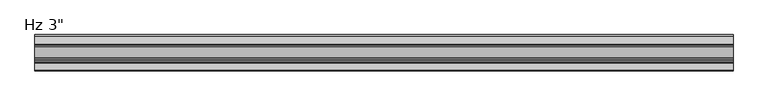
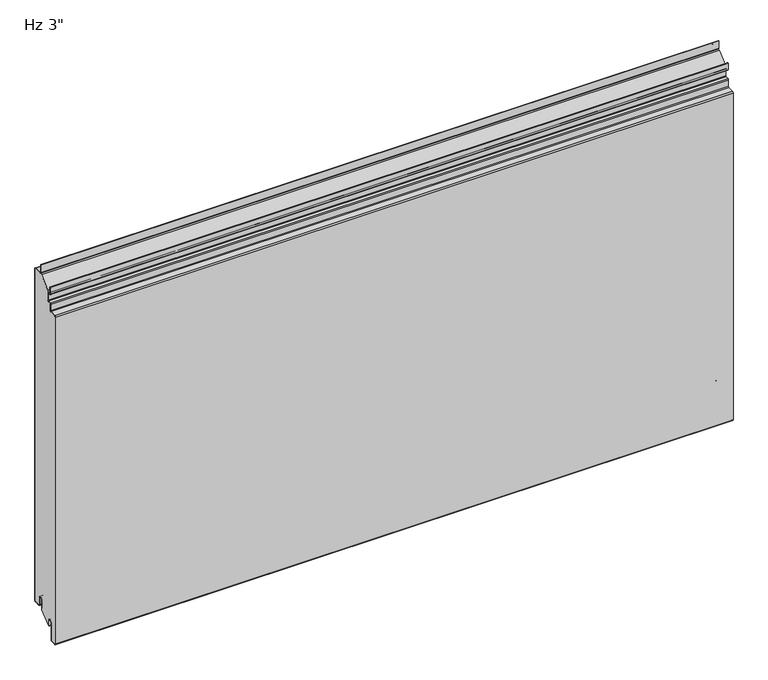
"""IFC4 building model written with IfcOpenShell, lengths in millimetres: plate geometry."""

import ifcopenshell
import ifcopenshell.guid

model = None  # the IFC model being written
_history = None  # IfcOwnerHistory: only IFC2X3 demands one
_inside = {}  # id of a spatial element -> (the spatial element, [elements in it])
_under = {}  # id of a project, library or spatial element -> (it, [spatial elements below it])
_declared = {}  # id of a project -> (the project, [libraries it declares])
_typed = {}  # id of a type object -> (the type object, [elements of that type])
_made_of = {}  # id of a material, layer set ... -> (it, [elements and type objects made of it])


def new_model(schema):
    """Start an empty IFC model of exactly this schema.

    Asked for "IFC4X3", IfcOpenShell would pick the latest addendum, in which some entities
    have other attributes; the version numbers below select the first issue.
    IFC2X3 requires an IfcOwnerHistory on every rooted entity: one is made here for all.
    """
    global model, _history
    if schema == "IFC4X3":
        model = ifcopenshell.file(schema_version=(4, 3, 0, 0))
    else:
        model = ifcopenshell.file(schema=schema)
    _inside.clear()
    _under.clear()
    _declared.clear()
    _typed.clear()
    _made_of.clear()
    _history = None
    if model.schema == "IFC2X3":
        org = make("IfcOrganization", Name="unknown")
        user = make(
            "IfcPersonAndOrganization",
            ThePerson=make("IfcPerson", FamilyName="unknown"),
            TheOrganization=org,
        )
        app = make(
            "IfcApplication",
            ApplicationDeveloper=org,
            Version="unknown",
            ApplicationFullName="unknown",
            ApplicationIdentifier="unknown",
        )
        _history = make(
            "IfcOwnerHistory",
            OwningUser=user,
            OwningApplication=app,
            ChangeAction="ADDED",
            CreationDate=0,
        )
    return model


def make(cls, **values):
    """One entity of the class cls with the attributes given. An attribute that is None is left unset."""
    return model.create_entity(
        cls, **{name: value for name, value in values.items() if value is not None}
    )


def rooted(cls, **values):
    """An entity with a GlobalId (a new one), such as an element, a storey or a relation."""
    return make(cls, GlobalId=ifcopenshell.guid.new(), OwnerHistory=_history, **values)


def si_unit(unit_type, name, prefix=None):
    """IfcSIUnit, for example si_unit("LENGTHUNIT", "METRE", prefix="MILLI")."""
    return make("IfcSIUnit", UnitType=unit_type, Prefix=prefix, Name=name)


def assignment(units):
    """IfcUnitAssignment: the units of a project."""
    return None if units is None else make("IfcUnitAssignment", Units=units)


def point(xyz):
    """IfcCartesianPoint."""
    return None if xyz is None else make("IfcCartesianPoint", Coordinates=xyz)


def direction(xyz):
    """IfcDirection."""
    return None if xyz is None else make("IfcDirection", DirectionRatios=xyz)


def frame(location, z_axis=None, x_axis=None):
    """IfcAxis2Placement3D, a coordinate frame: its origin and axes. An axis left out is left unset."""
    return make(
        "IfcAxis2Placement3D",
        Location=point(location),
        Axis=direction(z_axis),
        RefDirection=direction(x_axis),
    )


def frame_2d(location, x_axis=None):
    """IfcAxis2Placement2D, a coordinate frame in the plane: its origin and x axis."""
    return make(
        "IfcAxis2Placement2D", Location=point(location), RefDirection=direction(x_axis)
    )


def origin():
    """The frame at (0, 0, 0) with its axes left unset."""
    return frame((0.0, 0.0, 0.0))


def place(relative_to, where):
    """IfcLocalPlacement: puts the frame where relative to a parent placement (None: the world)."""
    return make(
        "IfcLocalPlacement", PlacementRelTo=relative_to, RelativePlacement=where
    )


def context(
    kind, dimensions, precision=None, world=None, true_north=None, identifier=None
):
    """IfcGeometricRepresentationContext, for example the 3D "Model" context."""
    return make(
        "IfcGeometricRepresentationContext",
        ContextIdentifier=identifier,
        ContextType=kind,
        CoordinateSpaceDimension=dimensions,
        Precision=precision,
        WorldCoordinateSystem=world,
        TrueNorth=true_north,
    )


def project(units=None, contexts=None):
    """IfcProject with its units and contexts."""
    return rooted(
        "IfcProject",
        Name="project",
        RepresentationContexts=contexts,
        UnitsInContext=assignment(units),
    )


def spatial(cls, under=None, at=None, **own):
    """A site, building, storey or space (cls), placed at a placement, below another one or the project."""
    s = rooted(cls, ObjectPlacement=at, **own)
    if under is not None:
        _under.setdefault(under.id(), (under, []))[1].append(s)
    return s


def polyline(points):
    """IfcPolyline through the points."""
    return make("IfcPolyline", Points=[point(p) for p in points])


def circle_curve(where, radius):
    """IfcCircle in the frame where."""
    return make("IfcCircle", Position=where, Radius=radius)


def ellipse_curve(where, semi_axis1, semi_axis2):
    """IfcEllipse in the frame where."""
    return make(
        "IfcEllipse", Position=where, SemiAxis1=semi_axis1, SemiAxis2=semi_axis2
    )


def trimmed(basis, trim1, trim2, sense, master):
    """IfcTrimmedCurve: the piece of a basis curve between two trims."""
    return make(
        "IfcTrimmedCurve",
        BasisCurve=basis,
        Trim1=trim1,
        Trim2=trim2,
        SenseAgreement=sense,
        MasterRepresentation=master,
    )


def segment(curve, same_sense, transition):
    """IfcCompositeCurveSegment."""
    return make(
        "IfcCompositeCurveSegment",
        Transition=transition,
        SameSense=same_sense,
        ParentCurve=curve,
    )


def composite_curve(segments, self_intersect=None):
    """IfcCompositeCurve: segments joined end to end."""
    return make("IfcCompositeCurve", Segments=segments, SelfIntersect=self_intersect)


def outline(outer, holes=None, kind="AREA"):
    """IfcArbitraryClosedProfileDef: a profile drawn as a closed curve; with holes, ...WithVoids."""
    if holes is None:
        return make("IfcArbitraryClosedProfileDef", ProfileType=kind, OuterCurve=outer)
    return make(
        "IfcArbitraryProfileDefWithVoids",
        ProfileType=kind,
        OuterCurve=outer,
        InnerCurves=holes,
    )


def extrude(swept, where, along, depth):
    """IfcExtrudedAreaSolid: the profile swept, set in the frame where, extruded along a direction by depth."""
    return make(
        "IfcExtrudedAreaSolid",
        SweptArea=swept,
        Position=where,
        ExtrudedDirection=direction(along),
        Depth=depth,
    )


def shape(context_of_items, identifier, shape_type, items):
    """IfcShapeRepresentation: the items that make up one representation, for example the "Body"."""
    return make(
        "IfcShapeRepresentation",
        ContextOfItems=context_of_items,
        RepresentationIdentifier=identifier,
        RepresentationType=shape_type,
        Items=items,
    )


def source(mapping_origin, context_of_items, identifier, shape_type, items):
    """IfcRepresentationMap: a shape defined once, which mapped items show again and again."""
    return make(
        "IfcRepresentationMap",
        MappingOrigin=mapping_origin,
        MappedRepresentation=shape(context_of_items, identifier, shape_type, items),
    )


def transform(
    local_origin,
    x_axis=None,
    y_axis=None,
    z_axis=None,
    scale=None,
    scale2=None,
    scale3=None,
    uniform=True,
):
    """IfcCartesianTransformationOperator3D, or its non-uniform kind. x_axis, y_axis, z_axis: its Axis1, 2, 3."""
    if uniform:
        return make(
            "IfcCartesianTransformationOperator3D",
            Axis1=direction(x_axis),
            Axis2=direction(y_axis),
            LocalOrigin=point(local_origin),
            Scale=scale,
            Axis3=direction(z_axis),
        )
    return make(
        "IfcCartesianTransformationOperator3DnonUniform",
        Axis1=direction(x_axis),
        Axis2=direction(y_axis),
        LocalOrigin=point(local_origin),
        Scale=scale,
        Axis3=direction(z_axis),
        Scale2=scale2,
        Scale3=scale3,
    )


def mapped(mapping_source, mapping_target):
    """IfcMappedItem: shows the shape of a source again, moved by a transform."""
    return make(
        "IfcMappedItem", MappingSource=mapping_source, MappingTarget=mapping_target
    )


def made_of(thing, what):
    """Note that an element or type object is made of a material, layer set ...; save() writes the relation."""
    if what is not None:
        _made_of.setdefault(what.id(), (what, []))[1].append(thing)
    return thing


def element(
    cls,
    number,
    at=None,
    inside=None,
    cuts=None,
    type_object=None,
    material=None,
    context=None,
    identifier="Body",
    shape_type=None,
    held_by="IfcProductDefinitionShape",
    body=None,
    shapes=None,
    **own,
):
    """One element of the class cls, such as IfcWall. Its Tag is "e" and its number.

    at: its placement. inside: the storey or other place that contains it. cuts: it is an
    opening in that element (IfcRelVoidsElement). A single representation is given by context,
    identifier, shape_type and body (its items); several are given by shapes. held_by: the class
    of the entity that holds the representations. save() writes the other relations.
    """
    e = rooted(cls, Tag="e%d" % number, ObjectPlacement=at, **own)
    if body is not None:
        shapes = [shape(context, identifier, shape_type, body)]
    if shapes is not None:
        e.Representation = make(held_by, Representations=shapes)
    if inside is not None:
        _inside.setdefault(inside.id(), (inside, []))[1].append(e)
    if cuts is not None:
        rooted(
            "IfcRelVoidsElement", RelatingBuildingElement=cuts, RelatedOpeningElement=e
        )
    if type_object is not None:
        _typed.setdefault(type_object.id(), (type_object, []))[1].append(e)
    return made_of(e, material)


def aggregate(whole, parts):
    """IfcRelAggregates: a whole, such as a stair, and the parts it consists of."""
    return rooted("IfcRelAggregates", RelatingObject=whole, RelatedObjects=parts)


def save(model, path):
    """Write the relations noted so far, then the file.

    IfcRelAggregates (storeys below a building ...), IfcRelContainedInSpatialStructure (elements
    in a storey), IfcRelDefinesByType, IfcRelAssociatesMaterial and IfcRelDeclares: one each for
    every whole, place, type object, material and project.
    """
    for whole, parts in _under.values():
        aggregate(whole, parts)
    for where, things in _inside.values():
        rooted(
            "IfcRelContainedInSpatialStructure",
            RelatedElements=things,
            RelatingStructure=where,
        )
    for kind, things in _typed.values():
        rooted("IfcRelDefinesByType", RelatedObjects=things, RelatingType=kind)
    for what, things in _made_of.values():
        rooted("IfcRelAssociatesMaterial", RelatedObjects=things, RelatingMaterial=what)
    for by, libraries in _declared.values():
        rooted("IfcRelDeclares", RelatingContext=by, RelatedDefinitions=libraries)
    model.write(path)


def plane_surface(at):
    """IfcPlane: the flat surface through the origin of the frame at, square to its z axis."""
    return make("IfcPlane", Position=at)


def cylinder_surface(at, radius):
    """IfcCylindricalSurface: all points at the distance radius from the z axis of the frame at."""
    return make("IfcCylindricalSurface", Position=at, Radius=radius)


def revolved_surface(curve, axis_point, axis_direction):
    """IfcSurfaceOfRevolution: the curve turned about the line through axis_point along axis_direction."""
    return make(
        "IfcSurfaceOfRevolution",
        SweptCurve=make("IfcArbitraryOpenProfileDef", ProfileType="CURVE", Curve=curve),
        AxisPosition=make("IfcAxis1Placement", Location=point(axis_point), Axis=direction(axis_direction)),
    )


def extruded_surface(curve, direction_of_extrusion, depth):
    """IfcSurfaceOfLinearExtrusion: the curve pushed along a direction by depth."""
    return make(
        "IfcSurfaceOfLinearExtrusion",
        SweptCurve=make("IfcArbitraryOpenProfileDef", ProfileType="CURVE", Curve=curve),
        ExtrudedDirection=direction(direction_of_extrusion),
        Depth=depth,
    )


def advanced_brep(points, edges, surfaces, faces):
    """IfcAdvancedBrep: a solid bounded by faces that lie on surfaces and meet in shared edges.

    An edge is (start, end): straight between two places in points (the first is 0);
    or (start, end, curve); or (start, end, curve, False) where it runs against its curve.
    A face is (place in surfaces, loops), or (place, loops, False) where it looks against
    its surface's normal. A loop lists edges by number (the first is 1), with a minus sign
    where the edge is run from its end to its start. The first loop is the outer one.
    """
    corners = [point(p) for p in points]
    vertices = [make("IfcVertexPoint", VertexGeometry=c) for c in corners]
    made = []
    for start, end, *more in edges:
        made.append(
            make(
                "IfcEdgeCurve",
                EdgeStart=vertices[start],
                EdgeEnd=vertices[end],
                EdgeGeometry=more[0] if more else make("IfcPolyline", Points=[corners[start], corners[end]]),
                SameSense=more[1] if len(more) > 1 else True,
            )
        )
    hull = []
    for where, loops, *sense in faces:
        bounds = []
        for j, loop in enumerate(loops):
            ring = [make("IfcOrientedEdge", EdgeElement=made[abs(k) - 1], Orientation=k > 0) for k in loop]
            bounds.append(
                make(
                    "IfcFaceOuterBound" if j == 0 else "IfcFaceBound",
                    Bound=make("IfcEdgeLoop", EdgeList=ring),
                    Orientation=True,
                )
            )
        hull.append(make("IfcAdvancedFace", Bounds=bounds, FaceSurface=surfaces[where], SameSense=sense[0] if sense else True))
    return make("IfcAdvancedBrep", Outer=make("IfcClosedShell", CfsFaces=hull))


def plate_ecee1f56(model_context):
    return source(origin(), model_context, "Body", "SolidModel", [
        extrude(outline(composite_curve([segment(trimmed(circle_curve(frame_2d((-21.43125, 19.05)), 4.96875), [point((-16.4625, 19.05))], [point((-26.4, 19.05))], True, "CARTESIAN"), True, "CONTINUOUS"), segment(polyline([(-26.4, 19.05), (-26.4, -3.1323422), (-49.2157227, -23.01875), (-50.8, -23.01875), (-50.8, -13.5080174), (-51.59375, -13.5080174), (-51.3875, -11.9205174)]), True, "CONTINUOUS"), segment(trimmed(circle_curve(frame_2d((-56.35625, -11.9205174)), 4.96875), [point((-51.3875, -11.9205174))], [point((-61.325, -11.9205174))], True, "CARTESIAN"), True, "CONTINUOUS"), segment(polyline([(-61.325, -11.9205174), (-61.325, -50.1038221)]), True, "CONTINUOUS"), segment(trimmed(circle_curve(frame_2d((-62.70625, -50.1038221)), 1.38125), [point((-61.325, -50.1038221))], [point((-62.633961, -51.4831791))], False, "CARTESIAN"), True, "CONTINUOUS"), segment(polyline([(-62.633961, -51.4831791), (-73.746461, -52.0655606)]), True, "CONTINUOUS"), segment(trimmed(circle_curve(frame_2d((-73.81875, -50.6862035)), 1.38125), [point((-73.746461, -52.0655606))], [point((-75.2, -50.6862035))], False, "CARTESIAN"), True, "CONTINUOUS"), segment(polyline([(-75.2, -50.6862035), (-75.2, 693.8447607)]), True, "CONTINUOUS"), segment(trimmed(circle_curve(frame_2d((-73.81875, 693.8447607)), 1.38125), [point((-75.2, 693.8447607))], [point((-73.891039, 695.2241177))], False, "CARTESIAN"), True, "CONTINUOUS"), segment(polyline([(-73.891039, 695.2241177), (-60.1895807, 695.9421807)]), True, "CONTINUOUS"), segment(trimmed(circle_curve(frame_2d((-60.325, 698.5261347)), 2.5875), [point((-60.1895807, 695.9421807))], [point((-57.7375, 698.5261347))], True, "CARTESIAN"), True, "CONTINUOUS"), segment(polyline([(-57.7375, 698.5261347), (-57.7375, 712.6824411)]), True, "CONTINUOUS"), segment(trimmed(circle_curve(frame_2d((-56.35625, 712.6824411)), 1.38125), [point((-57.7375, 712.6824411))], [point((-56.428539, 714.0617981))], False, "CARTESIAN"), True, "CONTINUOUS"), segment(polyline([(-56.428539, 714.0617981), (-50.6645807, 714.3638744)]), True, "CONTINUOUS"), segment(trimmed(circle_curve(frame_2d((-50.8, 716.9478283)), 2.5875), [point((-50.6645807, 714.3638744))], [point((-48.2125, 716.9478283))], True, "CARTESIAN"), True, "CONTINUOUS"), segment(polyline([(-48.2125, 716.9478283), (-48.2125, 739.3892934), (-24.9057308, 760.20625), (-2.38125, 760.20625)]), True, "CONTINUOUS"), segment(trimmed(circle_curve(frame_2d((-2.38125, 758.825)), 1.38125), [point((-2.38125, 760.20625))], [point((-1.0, 758.825))], False, "CARTESIAN"), True, "CONTINUOUS"), segment(polyline([(-1.0, 758.825), (-1.0, 3.175)]), True, "CONTINUOUS"), segment(trimmed(circle_curve(frame_2d((-2.38125, 3.175)), 1.38125), [point((-1.0, 3.175))], [point((-2.38125, 1.79375))], False, "CARTESIAN"), True, "CONTINUOUS"), segment(polyline([(-2.38125, 1.79375), (-15.08125, 1.79375)]), True, "CONTINUOUS"), segment(trimmed(circle_curve(frame_2d((-15.08125, 3.175)), 1.38125), [point((-15.08125, 1.79375))], [point((-16.4625, 3.175))], False, "CARTESIAN"), True, "CONTINUOUS"), segment(polyline([(-16.4625, 3.175), (-16.4625, 19.05)]), True, "CONTINUOUS")], self_intersect=False)), frame((-730.0, 0.0, 0.0), z_axis=(1.0, 0.0, 0.0), x_axis=(0.0, 1.0, 0.0)), (0.0, 0.0, 1.0), 1460.0),
        extrude(outline(composite_curve([segment(polyline([(-25.4, 0.79375), (-26.4, 0.79375), (-26.4, 19.05)]), True, "CONTINUOUS"), segment(trimmed(circle_curve(frame_2d((-21.43125, 19.05)), 4.96875), [point((-26.4, 19.05))], [point((-16.4625, 19.05))], False, "CARTESIAN"), True, "CONTINUOUS"), segment(polyline([(-16.4625, 19.05), (-16.4625, 3.175)]), True, "CONTINUOUS"), segment(trimmed(circle_curve(frame_2d((-15.08125, 3.175)), 1.38125), [point((-16.4625, 3.175))], [point((-15.08125, 1.79375))], True, "CARTESIAN"), True, "CONTINUOUS"), segment(polyline([(-15.08125, 1.79375), (-2.38125, 1.79375)]), True, "CONTINUOUS"), segment(trimmed(circle_curve(frame_2d((-2.38125, 3.175)), 1.38125), [point((-2.38125, 1.79375))], [point((-1.0, 3.175))], True, "CARTESIAN"), True, "CONTINUOUS"), segment(polyline([(-1.0, 3.175), (-1.0, 758.825)]), True, "CONTINUOUS"), segment(trimmed(circle_curve(frame_2d((-2.38125, 758.825)), 1.38125), [point((-1.0, 758.825))], [point((-2.38125, 760.20625))], True, "CARTESIAN"), True, "CONTINUOUS"), segment(polyline([(-2.38125, 760.20625), (-19.446875, 760.20625)]), True, "CONTINUOUS"), segment(trimmed(circle_curve(frame_2d((-19.446875, 762.79375)), 2.5875), [point((-19.446875, 760.20625))], [point((-22.034375, 762.79375))], False, "CARTESIAN"), True, "CONTINUOUS"), segment(polyline([(-22.034375, 762.79375), (-22.034375, 780.25625), (-21.034375, 780.25625), (-21.034375, 762.79375)]), True, "CONTINUOUS"), segment(trimmed(circle_curve(frame_2d((-19.446875, 762.79375)), 1.5875), [point((-21.034375, 762.79375))], [point((-19.446875, 761.20625))], True, "CARTESIAN"), True, "CONTINUOUS"), segment(polyline([(-19.446875, 761.20625), (-2.38125, 761.20625)]), True, "CONTINUOUS"), segment(trimmed(circle_curve(frame_2d((-2.38125, 758.825)), 2.38125), [point((-2.38125, 761.20625))], [point((0.0, 758.825))], False, "CARTESIAN"), True, "CONTINUOUS"), segment(polyline([(0.0, 758.825), (0.0, 3.175)]), True, "CONTINUOUS"), segment(trimmed(circle_curve(frame_2d((-2.38125, 3.175)), 2.38125), [point((0.0, 3.175))], [point((-2.38125, 0.79375))], False, "CARTESIAN"), True, "CONTINUOUS"), segment(polyline([(-2.38125, 0.79375), (-15.08125, 0.79375)]), True, "CONTINUOUS"), segment(trimmed(circle_curve(frame_2d((-15.08125, 3.175)), 2.38125), [point((-15.08125, 0.79375))], [point((-17.4625, 3.175))], False, "CARTESIAN"), True, "CONTINUOUS"), segment(polyline([(-17.4625, 3.175), (-17.4625, 19.05)]), True, "CONTINUOUS"), segment(trimmed(circle_curve(frame_2d((-21.43125, 19.05)), 3.96875), [point((-17.4625, 19.05))], [point((-25.4, 19.05))], True, "CARTESIAN"), True, "CONTINUOUS"), segment(polyline([(-25.4, 19.05), (-25.4, 0.79375)]), True, "CONTINUOUS")], self_intersect=False)), frame((-730.0, 0.0, 0.0), z_axis=(1.0, 0.0, 0.0), x_axis=(0.0, 1.0, 0.0)), (0.0, 0.0, 1.0), 1460.0),
        advanced_brep(
        [(-730.0, -50.8, -23.2314549), (-730.0, -52.3875, -23.2314549), (-730.0, -52.3875, -11.9205174), (-730.0, -60.325, -11.9205174), (-730.0, -60.325, -50.1038221), (-730.0, -62.581625, -52.4818086), (-730.0, -73.694125, -53.0641901), (-730.0, -76.2, -50.6862035), (-730.0, -76.2, 693.8447607), (-730.0, -73.943375, 696.2227473), (-730.0, -60.2419167, 696.9408103), (-730.0, -58.7375, 698.5261347), (-730.0, -58.7375, 712.6824411), (-730.0, -56.480875, 715.0604276), (-730.0, -50.7169167, 715.3625039), (-730.0, -49.2125, 716.9478283), (-730.0, -49.2125, 731.8232326), (-730.0, -50.8, 733.4107326), (-730.0, -54.9671875, 733.4107326), (-730.0, -57.3484375, 735.7919826), (-730.0, -57.3484375, 750.2836032), (-730.0, -55.5546875, 750.2836032), (-730.0, -55.5546875, 740.5544826), (-730.0, -56.3484375, 740.5544826), (-730.0, -56.3484375, 735.7919826), (-730.0, -54.9671875, 734.4107326), (-730.0, -50.8, 734.4107326), (-730.0, -48.2125, 731.8232326), (-730.0, -48.2125, 716.9478283), (-730.0, -50.6645807, 714.3638744), (-730.0, -56.428539, 714.0617981), (-730.0, -57.7375, 712.6824411), (-730.0, -57.7375, 698.5261347), (-730.0, -60.1895807, 695.9421807), (-730.0, -73.891039, 695.2241177), (-730.0, -75.2, 693.8447607), (-730.0, -75.2, -50.6862035), (-730.0, -73.746461, -52.0655606), (-730.0, -62.633961, -51.4831791), (-730.0, -61.325, -50.1038221), (-730.0, -61.325, -11.9205174), (-730.0, -51.3875, -11.9205174), (-730.0, -51.59375, -13.5080174), (-730.0, -50.8, -13.5080174), (730.0, -50.8, -23.2314549), (730.0, -50.8, -13.5080174), (730.0, -51.59375, -13.5080174), (730.0, -51.3875, -11.9205174), (730.0, -61.325, -11.9205174), (730.0, -61.325, -50.1038221), (730.0, -62.633961, -51.4831791), (730.0, -73.746461, -52.0655606), (730.0, -75.2, -50.6862035), (730.0, -75.2, 693.8447607), (730.0, -73.891039, 695.2241177), (730.0, -60.1895807, 695.9421807), (730.0, -57.7375, 698.5261347), (730.0, -57.7375, 712.6824411), (730.0, -56.428539, 714.0617981), (730.0, -50.6645807, 714.3638744), (730.0, -48.2125, 716.9478283), (730.0, -48.2125, 731.8232326), (730.0, -50.8, 734.4107326), (730.0, -54.9671875, 734.4107326), (730.0, -56.3484375, 735.7919826), (730.0, -56.3484375, 740.5544826), (730.0, -55.5546875, 740.5544826), (730.0, -55.5546875, 750.2836032), (730.0, -57.3484375, 750.2836032), (730.0, -57.3484375, 735.7919826), (730.0, -54.9671875, 733.4107326), (730.0, -50.8, 733.4107326), (730.0, -49.2125, 731.8232326), (730.0, -49.2125, 716.9478283), (730.0, -50.7169167, 715.3625039), (730.0, -56.480875, 715.0604276), (730.0, -58.7375, 712.6824411), (730.0, -58.7375, 698.5261347), (730.0, -60.2419167, 696.9408103), (730.0, -73.943375, 696.2227473), (730.0, -76.2, 693.8447607), (730.0, -76.2, -50.6862035), (730.0, -73.694125, -53.0641901), (730.0, -62.581625, -52.4818086), (730.0, -60.325, -50.1038221), (730.0, -60.325, -11.9205174), (730.0, -52.3875, -11.9205174), (730.0, -52.3875, -23.2314549)],
        [
            (0, 1, circle_curve(frame((-730.0, -51.59375, -23.2314549), z_axis=(-1.0, 0.0, 0.0), x_axis=(0.0, 0.0, -1.0)), 0.79375)),
            (1, 2),
            (2, 3, circle_curve(frame((-730.0, -56.35625, -11.9205174), z_axis=(1.0, 0.0, 0.0), x_axis=(0.0, 0.0, -1.0)), 3.96875)),
            (3, 4),
            (4, 5, circle_curve(frame((-730.0, -62.70625, -50.1038221), z_axis=(-1.0, 0.0, 0.0), x_axis=(0.0, 0.0, -1.0)), 2.38125)),
            (5, 6),
            (6, 7, circle_curve(frame((-730.0, -73.81875, -50.6862035), z_axis=(-1.0, 0.0, 0.0), x_axis=(0.0, 0.0, -1.0)), 2.38125)),
            (7, 8),
            (8, 9, circle_curve(frame((-730.0, -73.81875, 693.8447607), z_axis=(-1.0, 0.0, 0.0), x_axis=(0.0, 0.0, -1.0)), 2.38125)),
            (9, 10),
            (10, 11, circle_curve(frame((-730.0, -60.325, 698.5261347), z_axis=(1.0, 0.0, 0.0), x_axis=(0.0, 0.0, -1.0)), 1.5875)),
            (11, 12),
            (12, 13, circle_curve(frame((-730.0, -56.35625, 712.6824411), z_axis=(-1.0, 0.0, 0.0), x_axis=(0.0, 0.0, -1.0)), 2.38125)),
            (13, 14),
            (14, 15, circle_curve(frame((-730.0, -50.8, 716.9478283), z_axis=(1.0, 0.0, 0.0), x_axis=(0.0, 0.0, -1.0)), 1.5875)),
            (15, 16),
            (16, 17, circle_curve(frame((-730.0, -50.8, 731.8232326), z_axis=(1.0, 0.0, 0.0), x_axis=(0.0, 0.0, -1.0)), 1.5875)),
            (17, 18),
            (18, 19, circle_curve(frame((-730.0, -54.9671875, 735.7919826), z_axis=(-1.0, 0.0, 0.0), x_axis=(0.0, 0.0, -1.0)), 2.38125)),
            (19, 20),
            (20, 21, ellipse_curve(frame((-730.0, -56.4515625, 750.2836032), z_axis=(-1.0, 0.0, 0.0), x_axis=(0.0, 1.0, 0.0)), 0.896875, 0.7852275)),
            (21, 22),
            (22, 23),
            (23, 24),
            (24, 25, circle_curve(frame((-730.0, -54.9671875, 735.7919826), z_axis=(1.0, 0.0, 0.0), x_axis=(0.0, 0.0, -1.0)), 1.38125)),
            (25, 26),
            (26, 27, circle_curve(frame((-730.0, -50.8, 731.8232326), z_axis=(-1.0, 0.0, 0.0), x_axis=(0.0, 0.0, -1.0)), 2.5875)),
            (27, 28),
            (28, 29, circle_curve(frame((-730.0, -50.8, 716.9478283), z_axis=(-1.0, 0.0, 0.0), x_axis=(0.0, 0.0, -1.0)), 2.5875)),
            (29, 30),
            (30, 31, circle_curve(frame((-730.0, -56.35625, 712.6824411), z_axis=(1.0, 0.0, 0.0), x_axis=(0.0, 0.0, -1.0)), 1.38125)),
            (31, 32),
            (32, 33, circle_curve(frame((-730.0, -60.325, 698.5261347), z_axis=(-1.0, 0.0, 0.0), x_axis=(0.0, 0.0, -1.0)), 2.5875)),
            (33, 34),
            (34, 35, circle_curve(frame((-730.0, -73.81875, 693.8447607), z_axis=(1.0, 0.0, 0.0), x_axis=(0.0, 0.0, -1.0)), 1.38125)),
            (35, 36),
            (36, 37, circle_curve(frame((-730.0, -73.81875, -50.6862035), z_axis=(1.0, 0.0, 0.0), x_axis=(0.0, 0.0, -1.0)), 1.38125)),
            (37, 38),
            (38, 39, circle_curve(frame((-730.0, -62.70625, -50.1038221), z_axis=(1.0, 0.0, 0.0), x_axis=(0.0, 0.0, -1.0)), 1.38125)),
            (39, 40),
            (40, 41, circle_curve(frame((-730.0, -56.35625, -11.9205174), z_axis=(-1.0, 0.0, 0.0), x_axis=(0.0, 0.0, -1.0)), 4.96875)),
            (41, 42),
            (42, 43),
            (43, 0),
            (44, 45),
            (45, 46),
            (46, 47),
            (47, 48, circle_curve(frame((730.0, -56.35625, -11.9205174), z_axis=(1.0, 0.0, 0.0), x_axis=(0.0, 0.0, -1.0)), 4.96875)),
            (48, 49),
            (49, 50, circle_curve(frame((730.0, -62.70625, -50.1038221), z_axis=(-1.0, 0.0, 0.0), x_axis=(0.0, 0.0, -1.0)), 1.38125)),
            (50, 51),
            (51, 52, circle_curve(frame((730.0, -73.81875, -50.6862035), z_axis=(-1.0, 0.0, 0.0), x_axis=(0.0, 0.0, -1.0)), 1.38125)),
            (52, 53),
            (53, 54, circle_curve(frame((730.0, -73.81875, 693.8447607), z_axis=(-1.0, 0.0, 0.0), x_axis=(0.0, 0.0, -1.0)), 1.38125)),
            (54, 55),
            (55, 56, circle_curve(frame((730.0, -60.325, 698.5261347), z_axis=(1.0, 0.0, 0.0), x_axis=(0.0, 0.0, -1.0)), 2.5875)),
            (56, 57),
            (57, 58, circle_curve(frame((730.0, -56.35625, 712.6824411), z_axis=(-1.0, 0.0, 0.0), x_axis=(0.0, 0.0, -1.0)), 1.38125)),
            (58, 59),
            (59, 60, circle_curve(frame((730.0, -50.8, 716.9478283), z_axis=(1.0, 0.0, 0.0), x_axis=(0.0, 0.0, -1.0)), 2.5875)),
            (60, 61),
            (61, 62, circle_curve(frame((730.0, -50.8, 731.8232326), z_axis=(1.0, 0.0, 0.0), x_axis=(0.0, 0.0, -1.0)), 2.5875)),
            (62, 63),
            (63, 64, circle_curve(frame((730.0, -54.9671875, 735.7919826), z_axis=(-1.0, 0.0, 0.0), x_axis=(0.0, 0.0, -1.0)), 1.38125)),
            (64, 65),
            (65, 66),
            (66, 67),
            (67, 68, ellipse_curve(frame((730.0, -56.4515625, 750.2836032), z_axis=(1.0, 0.0, 0.0), x_axis=(0.0, 1.0, 0.0)), 0.896875, 0.7852275)),
            (68, 69),
            (69, 70, circle_curve(frame((730.0, -54.9671875, 735.7919826), z_axis=(1.0, 0.0, 0.0), x_axis=(0.0, 0.0, -1.0)), 2.38125)),
            (70, 71),
            (71, 72, circle_curve(frame((730.0, -50.8, 731.8232326), z_axis=(-1.0, 0.0, 0.0), x_axis=(0.0, 0.0, -1.0)), 1.5875)),
            (72, 73),
            (73, 74, circle_curve(frame((730.0, -50.8, 716.9478283), z_axis=(-1.0, 0.0, 0.0), x_axis=(0.0, 0.0, -1.0)), 1.5875)),
            (74, 75),
            (75, 76, circle_curve(frame((730.0, -56.35625, 712.6824411), z_axis=(1.0, 0.0, 0.0), x_axis=(0.0, 0.0, -1.0)), 2.38125)),
            (76, 77),
            (77, 78, circle_curve(frame((730.0, -60.325, 698.5261347), z_axis=(-1.0, 0.0, 0.0), x_axis=(0.0, 0.0, -1.0)), 1.5875)),
            (78, 79),
            (79, 80, circle_curve(frame((730.0, -73.81875, 693.8447607), z_axis=(1.0, 0.0, 0.0), x_axis=(0.0, 0.0, -1.0)), 2.38125)),
            (80, 81),
            (81, 82, circle_curve(frame((730.0, -73.81875, -50.6862035), z_axis=(1.0, 0.0, 0.0), x_axis=(0.0, 0.0, -1.0)), 2.38125)),
            (82, 83),
            (83, 84, circle_curve(frame((730.0, -62.70625, -50.1038221), z_axis=(1.0, 0.0, 0.0), x_axis=(0.0, 0.0, -1.0)), 2.38125)),
            (84, 85),
            (85, 86, circle_curve(frame((730.0, -56.35625, -11.9205174), z_axis=(-1.0, 0.0, 0.0), x_axis=(0.0, 0.0, -1.0)), 3.96875)),
            (86, 87),
            (87, 44, circle_curve(frame((730.0, -51.59375, -23.2314549), z_axis=(1.0, 0.0, 0.0), x_axis=(0.0, 0.0, -1.0)), 0.79375)),
            (36, 52),
            (51, 37),
            (50, 38),
            (49, 39),
            (48, 40),
            (47, 41),
            (42, 46),
            (45, 43),
            (22, 66),
            (65, 23),
            (21, 67),
            (20, 68),
            (34, 54),
            (53, 35),
            (32, 56),
            (55, 33),
            (30, 58),
            (57, 31),
            (28, 60),
            (59, 29),
            (24, 64),
            (63, 25),
            (26, 62),
            (61, 27),
            (19, 69),
            (17, 71),
            (70, 18),
            (15, 73),
            (72, 16),
            (13, 75),
            (74, 14),
            (11, 77),
            (76, 12),
            (9, 79),
            (78, 10),
            (7, 81),
            (80, 8),
            (5, 83),
            (82, 6),
            (3, 85),
            (84, 4),
            (1, 87),
            (86, 2),
            (44, 0),
        ],
        [
            plane_surface(frame((-730.0, -76.2, 381.0), z_axis=(-1.0, 0.0, 0.0), x_axis=(0.0, -1.0, 0.0))),
            plane_surface(frame((730.0, -76.2, 381.0), z_axis=(1.0, 0.0, 0.0), x_axis=(0.0, -1.0, 0.0))),
            revolved_surface(polyline([(730.0, -73.81875, -52.0674535), (-730.0, -73.81875, -52.0674535)]), (-730.0, -73.81875, -50.6862035), (1.0, 0.0, 0.0)),
            plane_surface(frame((-730.0, -62.633961, -51.4831791), z_axis=(0.0, -0.05233595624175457, 0.9986295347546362), x_axis=(1.0, 0.0, 0.0))),
            revolved_surface(polyline([(730.0, -62.70625, -51.485072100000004), (-730.0, -62.70625, -51.485072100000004)]), (-730.0, -62.70625, -50.1038221), (1.0, 0.0, 0.0)),
            plane_surface(frame((-730.0, -61.325, -11.9205174), z_axis=(0.0, -1.0, 0.0), x_axis=(1.0, 0.0, 0.0))),
            cylinder_surface(frame((-730.0, -56.35625, -11.9205174), z_axis=(-1.0, 0.0, 0.0), x_axis=(0.0, 0.0, -1.0)), 4.96875),
            plane_surface(frame((-730.0, -50.8, -13.5080174), z_axis=(0.0, 0.0, 1.0), x_axis=(1.0, 0.0, 0.0))),
            plane_surface(frame((-730.0, -51.59375, -13.5080174), z_axis=(0.0, 0.9916655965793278, -0.12883844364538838), x_axis=(1.0, 0.0, 0.0))),
            plane_surface(frame((-730.0, -56.3484375, 740.5544826), z_axis=(0.0, 0.0, -1.0), x_axis=(1.0, 0.0, 0.0))),
            plane_surface(frame((-730.0, -55.5546875, 740.5544826), z_axis=(0.0, 1.0, 0.0), x_axis=(1.0, 0.0, 0.0))),
            extruded_surface(trimmed(ellipse_curve(frame((-730.0, -56.4515625, 750.2836032), z_axis=(1.0, 0.0, 0.0), x_axis=(0.0, 1.0, 0.0)), 0.896875, 0.7852275), [point((-730.0, -55.5546875, 750.2836032))], [point((-730.0, -57.3484375, 750.2836032))], True, "CARTESIAN"), (1460.0, 0.0, 0.0), 1460.0),
            revolved_surface(polyline([(730.0, -73.81875, 692.4635107), (-730.0, -73.81875, 692.4635107)]), (-730.0, -73.81875, 693.8447607), (1.0, 0.0, 0.0)),
            cylinder_surface(frame((-730.0, -60.325, 698.5261347), z_axis=(-1.0, 0.0, 0.0), x_axis=(0.0, 0.0, -1.0)), 2.5875),
            plane_surface(frame((-730.0, -73.891039, 695.2241177), z_axis=(0.0, 0.05233595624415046, -0.9986295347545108), x_axis=(1.0, 0.0, 0.0))),
            plane_surface(frame((-730.0, -75.2, -50.6862035), z_axis=(0.0, 1.0, 0.0), x_axis=(1.0, 0.0, 0.0))),
            revolved_surface(polyline([(730.0, -56.35625, 711.3011911), (-730.0, -56.35625, 711.3011911)]), (-730.0, -56.35625, 712.6824411), (1.0, 0.0, 0.0)),
            cylinder_surface(frame((-730.0, -50.8, 716.9478283), z_axis=(-1.0, 0.0, 0.0), x_axis=(0.0, 0.0, -1.0)), 2.5875),
            plane_surface(frame((-730.0, -56.428539, 714.0617981), z_axis=(0.0, 0.052335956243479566, -0.9986295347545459), x_axis=(1.0, 0.0, 0.0))),
            plane_surface(frame((-730.0, -57.7375, 698.5261347), z_axis=(0.0, 1.0, 0.0), x_axis=(1.0, 0.0, 0.0))),
            revolved_surface(polyline([(730.0, -54.9671875, 734.4107326), (-730.0, -54.9671875, 734.4107326)]), (-730.0, -54.9671875, 735.7919826), (1.0, 0.0, 0.0)),
            cylinder_surface(frame((-730.0, -50.8, 731.8232326), z_axis=(-1.0, 0.0, 0.0), x_axis=(0.0, 0.0, -1.0)), 2.5875),
            plane_surface(frame((-730.0, -50.8, 734.4107326), z_axis=(0.0, 0.0, 1.0), x_axis=(1.0, 0.0, 0.0))),
            plane_surface(frame((-730.0, -56.3484375, 735.7919826), z_axis=(0.0, 1.0, 0.0), x_axis=(1.0, 0.0, 0.0))),
            plane_surface(frame((-730.0, -57.3484375, 750.2836032), z_axis=(0.0, -1.0, 0.0), x_axis=(1.0, 0.0, 0.0))),
            plane_surface(frame((-730.0, -54.9671875, 733.4107326), z_axis=(0.0, 0.0, -1.0), x_axis=(1.0, 0.0, 0.0))),
            cylinder_surface(frame((-730.0, -54.9671875, 735.7919826), z_axis=(-1.0, 0.0, 0.0), x_axis=(0.0, 0.0, -1.0)), 2.38125),
            plane_surface(frame((-730.0, -48.2125, 716.9478283), z_axis=(0.0, 1.0, 0.0), x_axis=(1.0, 0.0, 0.0))),
            plane_surface(frame((-730.0, -49.2125, 731.8232326), z_axis=(0.0, -1.0, 0.0), x_axis=(1.0, 0.0, 0.0))),
            plane_surface(frame((-730.0, -50.7169167, 715.3625039), z_axis=(0.0, -0.05233595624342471, 0.9986295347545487), x_axis=(1.0, 0.0, 0.0))),
            revolved_surface(polyline([(730.0, -50.8, 715.3603283), (-730.0, -50.8, 715.3603283)]), (-730.0, -50.8, 716.9478283), (1.0, 0.0, 0.0)),
            revolved_surface(polyline([(730.0, -50.8, 730.2357326), (-730.0, -50.8, 730.2357326)]), (-730.0, -50.8, 731.8232326), (1.0, 0.0, 0.0)),
            plane_surface(frame((-730.0, -58.7375, 712.6824411), z_axis=(0.0, -1.0, 0.0), x_axis=(1.0, 0.0, 0.0))),
            plane_surface(frame((-730.0, -60.2419167, 696.9408103), z_axis=(0.0, -0.0523359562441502, 0.9986295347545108), x_axis=(1.0, 0.0, 0.0))),
            revolved_surface(polyline([(730.0, -60.325, 696.9386347), (-730.0, -60.325, 696.9386347)]), (-730.0, -60.325, 698.5261347), (1.0, 0.0, 0.0)),
            cylinder_surface(frame((-730.0, -56.35625, 712.6824411), z_axis=(-1.0, 0.0, 0.0), x_axis=(0.0, 0.0, -1.0)), 2.38125),
            plane_surface(frame((-730.0, -76.2, 693.8447607), z_axis=(0.0, -1.0, 0.0), x_axis=(1.0, 0.0, 0.0))),
            plane_surface(frame((-730.0, -73.694125, -53.0641901), z_axis=(0.0, 0.05233595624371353, -0.9986295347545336), x_axis=(1.0, 0.0, 0.0))),
            cylinder_surface(frame((-730.0, -73.81875, -50.6862035), z_axis=(-1.0, 0.0, 0.0), x_axis=(0.0, 0.0, -1.0)), 2.38125),
            cylinder_surface(frame((-730.0, -73.81875, 693.8447607), z_axis=(-1.0, 0.0, 0.0), x_axis=(0.0, 0.0, -1.0)), 2.38125),
            plane_surface(frame((-730.0, -60.325, -50.1038221), z_axis=(0.0, 1.0, 0.0), x_axis=(1.0, 0.0, 0.0))),
            plane_surface(frame((-730.0, -52.3875, -11.9205174), z_axis=(0.0, -1.0, 0.0), x_axis=(1.0, 0.0, 0.0))),
            revolved_surface(polyline([(730.0, -56.35625, -15.8892674), (-730.0, -56.35625, -15.8892674)]), (-730.0, -56.35625, -11.9205174), (1.0, 0.0, 0.0)),
            cylinder_surface(frame((-730.0, -62.70625, -50.1038221), z_axis=(-1.0, 0.0, 0.0), x_axis=(0.0, 0.0, -1.0)), 2.38125),
            plane_surface(frame((-730.0, -50.8, -23.2314549), z_axis=(0.0, 1.0, 0.0), x_axis=(1.0, 0.0, 0.0))),
            cylinder_surface(frame((-730.0, -51.59375, -23.2314549), z_axis=(-1.0, 0.0, 0.0), x_axis=(0.0, 0.0, -1.0)), 0.79375),
        ],
        [
            (0, [[1, 2, 3, 4, 5, 6, 7, 8, 9, 10, 11, 12, 13, 14, 15, 16, 17, 18, 19, 20, 21, 22, 23, 24, 25, 26, 27, 28, 29, 30, 31, 32, 33, 34, 35, 36, 37, 38, 39, 40, 41, 42, 43, 44]]),
            (1, [[45, 46, 47, 48, 49, 50, 51, 52, 53, 54, 55, 56, 57, 58, 59, 60, 61, 62, 63, 64, 65, 66, 67, 68, 69, 70, 71, 72, 73, 74, 75, 76, 77, 78, 79, 80, 81, 82, 83, 84, 85, 86, 87, 88]]),
            (2, [[89, -52, 90, -37]]),
            (3, [[-90, -51, 91, -38]]),
            (4, [[-91, -50, 92, -39]]),
            (5, [[-92, -49, 93, -40]]),
            (6, [[-93, -48, 94, -41]]),
            (7, [[95, -46, 96, -43]]),
            (8, [[-94, -47, -95, -42]]),
            (9, [[97, -66, 98, -23]]),
            (10, [[99, -67, -97, -22]]),
            (11, [[100, -68, -99, -21]]),
            (12, [[101, -54, 102, -35]]),
            (13, [[103, -56, 104, -33]]),
            (14, [[-104, -55, -101, -34]]),
            (15, [[-102, -53, -89, -36]]),
            (16, [[105, -58, 106, -31]]),
            (17, [[107, -60, 108, -29]]),
            (18, [[-108, -59, -105, -30]]),
            (19, [[-106, -57, -103, -32]]),
            (20, [[109, -64, 110, -25]]),
            (21, [[111, -62, 112, -27]]),
            (22, [[-110, -63, -111, -26]]),
            (23, [[-98, -65, -109, -24]]),
            (24, [[113, -69, -100, -20]]),
            (25, [[114, -71, 115, -18]]),
            (26, [[-115, -70, -113, -19]]),
            (27, [[-112, -61, -107, -28]]),
            (28, [[116, -73, 117, -16]]),
            (29, [[118, -75, 119, -14]]),
            (30, [[-119, -74, -116, -15]]),
            (31, [[-117, -72, -114, -17]]),
            (32, [[120, -77, 121, -12]]),
            (33, [[122, -79, 123, -10]]),
            (34, [[-123, -78, -120, -11]]),
            (35, [[-121, -76, -118, -13]]),
            (36, [[124, -81, 125, -8]]),
            (37, [[126, -83, 127, -6]]),
            (38, [[-127, -82, -124, -7]]),
            (39, [[-125, -80, -122, -9]]),
            (40, [[128, -85, 129, -4]]),
            (41, [[130, -87, 131, -2]]),
            (42, [[-131, -86, -128, -3]]),
            (43, [[-129, -84, -126, -5]]),
            (44, [[-96, -45, 132, -44]]),
            (45, [[-132, -88, -130, -1]]),
        ],
    ),
    ])


if __name__ == "__main__":
    model = new_model("IFC4")
    model_context = context("Model", 3, world=origin())
    ifc_project = project(units=[si_unit("LENGTHUNIT", "METRE", prefix="MILLI")], contexts=[model_context])
    site = spatial("IfcSite", under=ifc_project)
    building = spatial("IfcBuilding", under=site)
    placement = place(None, origin())
    plate_shape = plate_ecee1f56(model_context)
    element("IfcPlate", 1, ObjectType="KIP-30-DWHR-R19-CP-Hz-F : Hz 3\"", at=placement, inside=building, context=model_context, shape_type="MappedRepresentation", body=[
        mapped(plate_shape, transform((0.0, 0.0, 0.0), x_axis=(1.0, 0.0, 0.0), y_axis=(0.0, 1.0, 0.0), z_axis=(0.0, 0.0, 1.0))),
    ])
    save(model, "model.ifc")
